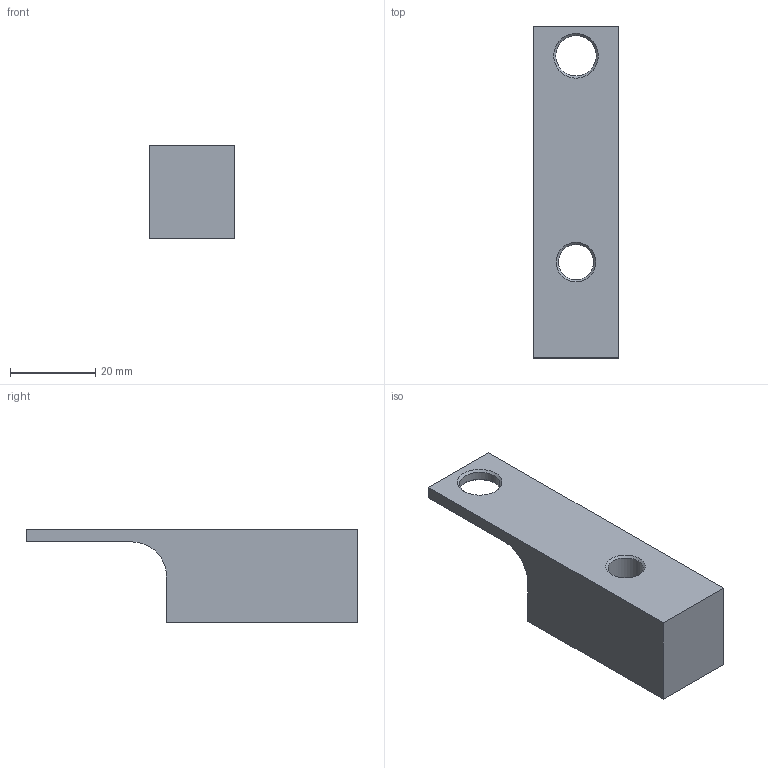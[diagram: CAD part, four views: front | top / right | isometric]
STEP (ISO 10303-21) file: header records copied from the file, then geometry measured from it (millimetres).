
FILE_DESCRIPTION(/* description */ (''),/* implementation_level */ '2;1');
FILE_NAME(/* name */ 'SYSTEM_SUPPORT_12.stp',/* time_stamp */ '2017-12-06T14:28:45+01:00',/* author */ (''),/* organization */ (''),/* preprocessor_version */ 'ST-DEVELOPER v16',/* originating_system */ 'SIEMENS PLM Software NX 10.0',/* authorisation */ '');
FILE_SCHEMA (('AP203_CONFIGURATION_CONTROLLED_3D_DESIGN_OF_MECHANICAL_PARTS_AND_ASSEMBLIES_MIM_LF { 1 0 10303 403 2 1 2}'));
Length unit declared in the file: millimetre
Products named in the file (1): turc1DB80072j4la
Bounding box: 20 x 78 x 22 mm (x, y, z)
Volume: 20637.2 mm3; surface area: 6518.6 mm2
Topology: 1 solids, 1 shells, 15 faces, 38 edges, 25 vertices
Faces by surface type: plane 8, cone 4, cylinder 3
Full cylindrical faces by diameter (mm): 8.3 x1, 9.5 x1
Entity records: 497 total; most frequent: DIRECTION 71, CARTESIAN_POINT 67, ORIENTED_EDGE 58, EDGE_CURVE 29, AXIS2_PLACEMENT_3D 26, EDGE_LOOP 25, VERTEX_POINT 22, LINE 19
